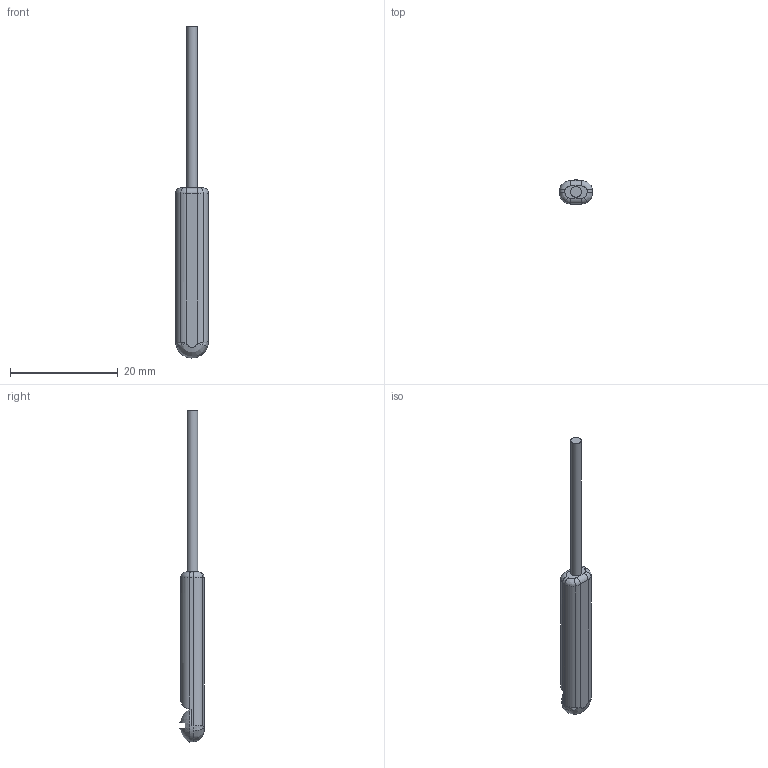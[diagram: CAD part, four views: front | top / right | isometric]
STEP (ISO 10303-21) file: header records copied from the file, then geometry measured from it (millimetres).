
FILE_DESCRIPTION((''),'2;1');
FILE_NAME('L:\MK\MAILBOX\HERRMANN.SH\P8S-xxxxx.stp','2012-11-09T11:38:44',('oz38835'),(''),'Autodesk Inventor 2011','Autodesk Inventor 2011','');
FILE_SCHEMA(('AUTOMOTIVE_DESIGN { 1 0 10303 214 1 1 1 1 }'));
Length unit declared in the file: millimetre
Products named in the file (1): P8S-GQSHX
Bounding box: 6.1 x 4.45 x 61.5 mm (x, y, z)
Volume: 767.3 mm3; surface area: 762 mm2
Topology: 1 solids, 1 shells, 36 faces, 77 edges, 44 vertices
Faces by surface type: plane 13, cylinder 13, bspline 5, torus 4, sphere 1
Full cylindrical faces by diameter (mm): 2 x1, 6.1 x1
Entity records: 1217 total; most frequent: CARTESIAN_POINT 425, DIRECTION 167, ORIENTED_EDGE 152, EDGE_CURVE 76, AXIS2_PLACEMENT_3D 67, VERTEX_POINT 44, EDGE_LOOP 39, FACE_OUTER_BOUND 36
